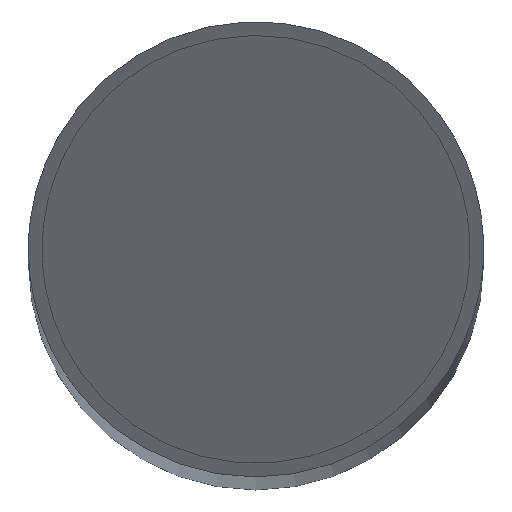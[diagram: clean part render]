
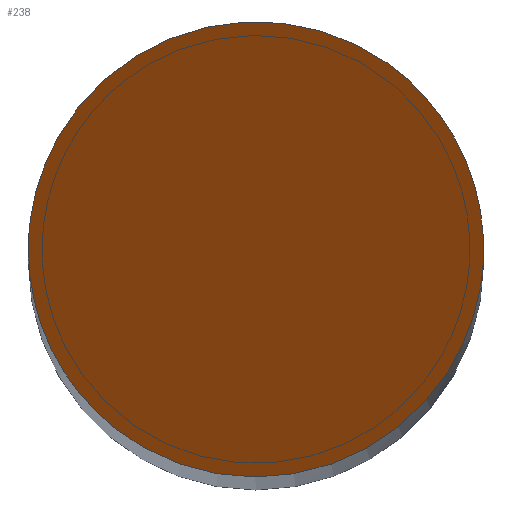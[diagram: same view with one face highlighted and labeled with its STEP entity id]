
A CAD part, top view. The second image highlights one B-rep face of the part: STEP entity #238.
In plain terms, the highlighted planar face has unit normal (-0.707, 0, 0.707).
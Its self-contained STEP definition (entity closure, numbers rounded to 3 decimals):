
#20=ELLIPSE('',#299,70.711,50.);
#21=ELLIPSE('',#300,70.711,50.);
#44=PLANE('',#301);
#69=FACE_OUTER_BOUND('',#92,.T.);
#92=EDGE_LOOP('',(#217,#218,#219));
#100=LINE('',#449,#109);
#109=VECTOR('',#377,10.);
#139=VERTEX_POINT('',#447);
#140=VERTEX_POINT('',#448);
#141=VERTEX_POINT('',#452);
#163=EDGE_CURVE('',#139,#140,#100,.T.);
#165=EDGE_CURVE('',#140,#141,#20,.T.);
#166=EDGE_CURVE('',#141,#139,#21,.T.);
#217=ORIENTED_EDGE('',*,*,#165,.T.);
#218=ORIENTED_EDGE('',*,*,#166,.T.);
#219=ORIENTED_EDGE('',*,*,#163,.T.);
#238=ADVANCED_FACE('',(#69),#44,.T.);
#299=AXIS2_PLACEMENT_3D('',#453,#382,#383);
#300=AXIS2_PLACEMENT_3D('',#454,#384,#385);
#301=AXIS2_PLACEMENT_3D('',#456,#387,#388);
#377=DIRECTION('',(0.,1.,0.));
#382=DIRECTION('center_axis',(-0.707,0.,0.707));
#383=DIRECTION('ref_axis',(0.707,0.,0.707));
#384=DIRECTION('center_axis',(-0.707,0.,0.707));
#385=DIRECTION('ref_axis',(0.707,0.,0.707));
#387=DIRECTION('center_axis',(-0.707,0.,0.707));
#388=DIRECTION('ref_axis',(0.707,0.,0.707));
#447=CARTESIAN_POINT('',(49.936,-2.527,1685.));
#448=CARTESIAN_POINT('',(49.936,2.527,1685.));
#449=CARTESIAN_POINT('',(49.936,0.,1685.));
#452=CARTESIAN_POINT('',(-50.,0.,1585.064));
#453=CARTESIAN_POINT('Origin',(0.,0.,1635.064));
#454=CARTESIAN_POINT('Origin',(0.,0.,1635.064));
#456=CARTESIAN_POINT('Origin',(-12.532,0.,1622.532));
